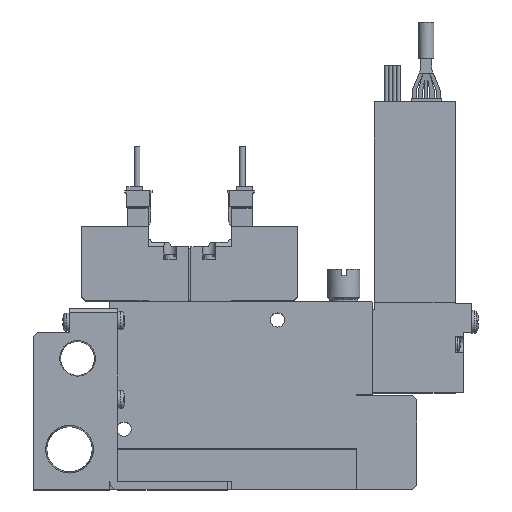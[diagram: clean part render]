
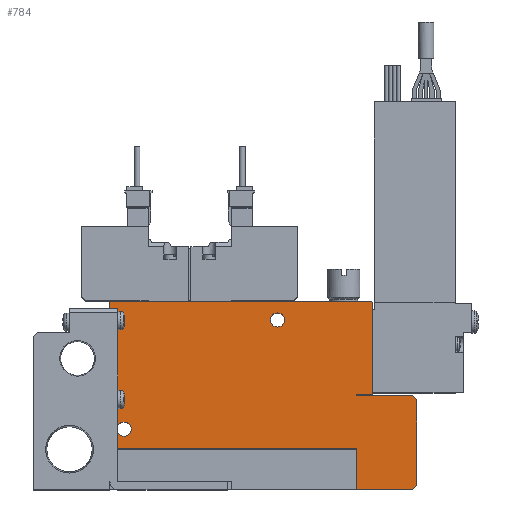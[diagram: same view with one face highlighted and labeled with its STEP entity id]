
A CAD part, top view. The second image highlights one B-rep face of the part: STEP entity #784.
In plain terms, the highlighted planar face has unit normal (0, 0, 1).
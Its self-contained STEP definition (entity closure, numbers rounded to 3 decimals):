
#784=ADVANCED_FACE('',(#1816,#1817,#1818),#1819,.F.);
#1816=FACE_OUTER_BOUND('',#3266,.T.);
#1817=FACE_BOUND('',#3267,.T.);
#1818=FACE_BOUND('',#3268,.T.);
#1819=PLANE('',#3269);
#3266=EDGE_LOOP('',(#6805,#6806,#6807,#6808,#6809,#6810,#6811,#6812,#6813,#6814,#6815,#6816,#6817,#6818));
#3267=EDGE_LOOP('',(#6819));
#3268=EDGE_LOOP('',(#6820));
#3269=AXIS2_PLACEMENT_3D('',#6821,#6822,#6823);
#6805=ORIENTED_EDGE('',*,*,#9674,.T.);
#6806=ORIENTED_EDGE('',*,*,#9701,.F.);
#6807=ORIENTED_EDGE('',*,*,#9702,.F.);
#6808=ORIENTED_EDGE('',*,*,#9703,.T.);
#6809=ORIENTED_EDGE('',*,*,#9704,.T.);
#6810=ORIENTED_EDGE('',*,*,#9705,.T.);
#6811=ORIENTED_EDGE('',*,*,#9706,.T.);
#6812=ORIENTED_EDGE('',*,*,#9707,.T.);
#6813=ORIENTED_EDGE('',*,*,#9678,.T.);
#6814=ORIENTED_EDGE('',*,*,#9708,.T.);
#6815=ORIENTED_EDGE('',*,*,#9709,.T.);
#6816=ORIENTED_EDGE('',*,*,#9710,.T.);
#6817=ORIENTED_EDGE('',*,*,#9711,.T.);
#6818=ORIENTED_EDGE('',*,*,#9712,.T.);
#6819=ORIENTED_EDGE('',*,*,#9713,.F.);
#6820=ORIENTED_EDGE('',*,*,#9714,.F.);
#6821=CARTESIAN_POINT('',(0.0,0.0,5.0));
#6822=DIRECTION('',(0.0,0.0,-1.0));
#6823=DIRECTION('',(0.0,-1.0,0.0));
#9674=EDGE_CURVE('',#11768,#11766,#11769,.T.);
#9678=EDGE_CURVE('',#11776,#11774,#11777,.T.);
#9701=EDGE_CURVE('',#11820,#11766,#11821,.T.);
#9702=EDGE_CURVE('',#11822,#11820,#11823,.T.);
#9703=EDGE_CURVE('',#11822,#11824,#11825,.T.);
#9704=EDGE_CURVE('',#11824,#11826,#11827,.T.);
#9705=EDGE_CURVE('',#11826,#11828,#11829,.T.);
#9706=EDGE_CURVE('',#11828,#11830,#11831,.T.);
#9707=EDGE_CURVE('',#11830,#11776,#11832,.T.);
#9708=EDGE_CURVE('',#11774,#11833,#11834,.T.);
#9709=EDGE_CURVE('',#11833,#11835,#11836,.T.);
#9710=EDGE_CURVE('',#11835,#11837,#11838,.T.);
#9711=EDGE_CURVE('',#11837,#11839,#11840,.T.);
#9712=EDGE_CURVE('',#11839,#11768,#11841,.T.);
#9713=EDGE_CURVE('',#11842,#11842,#11843,.T.);
#9714=EDGE_CURVE('',#11844,#11844,#11845,.T.);
#11766=VERTEX_POINT('',#15190);
#11768=VERTEX_POINT('',#15193);
#11769=LINE('',#15194,#15195);
#11774=VERTEX_POINT('',#15202);
#11776=VERTEX_POINT('',#15205);
#11777=LINE('',#15206,#15207);
#11820=VERTEX_POINT('',#15266);
#11821=LINE('',#15267,#15268);
#11822=VERTEX_POINT('',#15269);
#11823=LINE('',#15270,#15271);
#11824=VERTEX_POINT('',#15272);
#11825=LINE('',#15273,#15274);
#11826=VERTEX_POINT('',#15275);
#11827=LINE('',#15276,#15277);
#11828=VERTEX_POINT('',#15278);
#11829=LINE('',#15279,#15280);
#11830=VERTEX_POINT('',#15281);
#11831=LINE('',#15282,#15283);
#11832=LINE('',#15284,#15285);
#11833=VERTEX_POINT('',#15286);
#11834=LINE('',#15287,#15288);
#11835=VERTEX_POINT('',#15289);
#11836=LINE('',#15290,#15291);
#11837=VERTEX_POINT('',#15292);
#11838=LINE('',#15293,#15294);
#11839=VERTEX_POINT('',#15295);
#11840=LINE('',#15296,#15297);
#11841=LINE('',#15298,#15299);
#11842=VERTEX_POINT('',#15300);
#11843=CIRCLE('',#15301,1.75);
#11844=VERTEX_POINT('',#15302);
#11845=CIRCLE('',#15303,1.75);
#15190=CARTESIAN_POINT('',(0.0,10.1,5.0));
#15193=CARTESIAN_POINT('',(0.0,46.4,5.0));
#15194=CARTESIAN_POINT('',(0.0,46.4,5.0));
#15195=VECTOR('',#18646,1.0);
#15202=CARTESIAN_POINT('',(61.0,23.5,5.0));
#15205=CARTESIAN_POINT('',(61.0,23.25,5.0));
#15206=CARTESIAN_POINT('',(61.0,23.25,5.0));
#15207=VECTOR('',#18650,1.0);
#15266=CARTESIAN_POINT('',(61.1,10.1,5.0));
#15267=CARTESIAN_POINT('',(61.1,10.1,5.0));
#15268=VECTOR('',#18685,1.0);
#15269=CARTESIAN_POINT('',(61.1,0.0,5.0));
#15270=CARTESIAN_POINT('',(61.1,0.0,5.0));
#15271=VECTOR('',#18686,1.0);
#15272=CARTESIAN_POINT('',(75.0,0.0,5.0));
#15273=CARTESIAN_POINT('',(0.0,0.0,5.0));
#15274=VECTOR('',#18687,1.0);
#15275=CARTESIAN_POINT('',(76.0,1.0,5.0));
#15276=CARTESIAN_POINT('',(75.0,0.0,5.0));
#15277=VECTOR('',#18688,1.0);
#15278=CARTESIAN_POINT('',(76.0,22.25,5.0));
#15279=CARTESIAN_POINT('',(76.0,1.0,5.0));
#15280=VECTOR('',#18689,1.0);
#15281=CARTESIAN_POINT('',(75.0,23.25,5.0));
#15282=CARTESIAN_POINT('',(76.0,22.25,5.0));
#15283=VECTOR('',#18690,1.0);
#15284=CARTESIAN_POINT('',(75.0,23.25,5.0));
#15285=VECTOR('',#18691,1.0);
#15286=CARTESIAN_POINT('',(65.0,23.5,5.0));
#15287=CARTESIAN_POINT('',(61.0,23.5,5.0));
#15288=VECTOR('',#18692,1.0);
#15289=CARTESIAN_POINT('',(65.0,46.4,5.0));
#15290=CARTESIAN_POINT('',(65.0,23.5,5.0));
#15291=VECTOR('',#18693,1.0);
#15292=CARTESIAN_POINT('',(64.8,46.6,5.0));
#15293=CARTESIAN_POINT('',(65.0,46.4,5.0));
#15294=VECTOR('',#18694,1.0);
#15295=CARTESIAN_POINT('',(0.2,46.6,5.0));
#15296=CARTESIAN_POINT('',(64.8,46.6,5.0));
#15297=VECTOR('',#18695,1.0);
#15298=CARTESIAN_POINT('',(0.2,46.6,5.0));
#15299=VECTOR('',#18696,1.0);
#15300=CARTESIAN_POINT('',(5.25,15.0,5.0));
#15301=AXIS2_PLACEMENT_3D('',#18697,#18698,#18699);
#15302=CARTESIAN_POINT('',(43.25,42.0,5.0));
#15303=AXIS2_PLACEMENT_3D('',#18700,#18701,#18702);
#18646=DIRECTION('',(0.0,-1.0,0.0));
#18650=DIRECTION('',(0.0,1.0,0.0));
#18685=DIRECTION('',(-1.0,0.0,0.0));
#18686=DIRECTION('',(0.0,1.0,0.0));
#18687=DIRECTION('',(1.0,0.0,0.0));
#18688=DIRECTION('',(0.707,0.707,0.0));
#18689=DIRECTION('',(0.0,1.0,0.0));
#18690=DIRECTION('',(-0.707,0.707,0.0));
#18691=DIRECTION('',(-1.0,0.0,0.0));
#18692=DIRECTION('',(1.0,0.,0.0));
#18693=DIRECTION('',(0.0,1.0,0.0));
#18694=DIRECTION('',(-0.707,0.707,0.0));
#18695=DIRECTION('',(-1.0,0.0,0.0));
#18696=DIRECTION('',(-0.707,-0.707,0.0));
#18697=CARTESIAN_POINT('',(3.5,15.0,5.0));
#18698=DIRECTION('',(0.0,0.0,1.0));
#18699=DIRECTION('',(1.0,0.0,0.0));
#18700=CARTESIAN_POINT('',(41.5,42.0,5.0));
#18701=DIRECTION('',(0.0,0.0,1.0));
#18702=DIRECTION('',(1.0,0.0,0.0));
